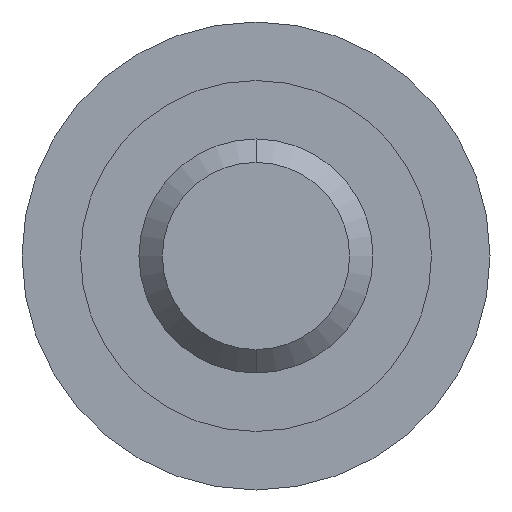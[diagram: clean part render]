
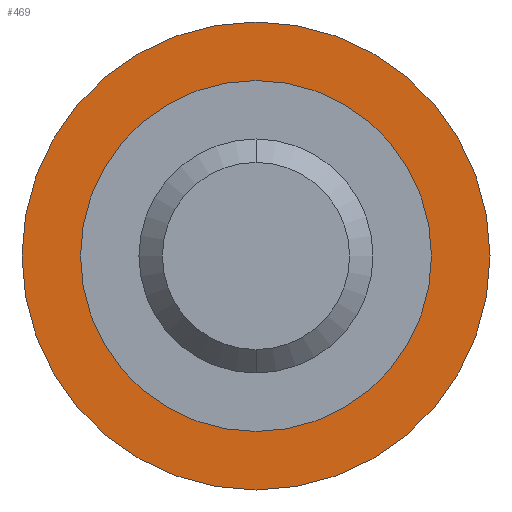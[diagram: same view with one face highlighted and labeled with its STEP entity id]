
A CAD part, front view. The second image highlights one B-rep face of the part: STEP entity #469.
In plain terms, the highlighted planar face has unit normal (0, -1, 0).
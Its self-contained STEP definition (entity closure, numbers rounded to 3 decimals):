
#2 = DIRECTION ( 'NONE',  ( 0., 1., 0. ) ) ;
#6 = DIRECTION ( 'NONE',  ( 0., 1., 0. ) ) ;
#13 = VERTEX_POINT ( 'NONE', #333 ) ;
#30 = EDGE_CURVE ( 'NONE', #13, #286, #299, .T. ) ;
#63 = CIRCLE ( 'NONE', #341, 5. ) ;
#65 = EDGE_LOOP ( 'NONE', ( #513, #101 ) ) ;
#74 = EDGE_CURVE ( 'NONE', #201, #272, #343, .T. ) ;
#100 = AXIS2_PLACEMENT_3D ( 'NONE', #324, #6, #279 ) ;
#101 = ORIENTED_EDGE ( 'NONE', *, *, #451, .F. ) ;
#120 = CARTESIAN_POINT ( 'NONE',  ( 0., 25.25, 3.75 ) ) ;
#154 = DIRECTION ( 'NONE',  ( 0., 1., 0. ) ) ;
#155 = PLANE ( 'NONE',  #300 ) ;
#157 = ORIENTED_EDGE ( 'NONE', *, *, #74, .T. ) ;
#167 = CARTESIAN_POINT ( 'NONE',  ( 0., 25.25, 5. ) ) ;
#201 = VERTEX_POINT ( 'NONE', #219 ) ;
#202 = DIRECTION ( 'NONE',  ( 0., 0., 1. ) ) ;
#207 = DIRECTION ( 'NONE',  ( 0., 0., 1. ) ) ;
#219 = CARTESIAN_POINT ( 'NONE',  ( 0., 25.25, -3.75 ) ) ;
#251 = CARTESIAN_POINT ( 'NONE',  ( 0., 25.25, 0. ) ) ;
#263 = FACE_OUTER_BOUND ( 'NONE', #65, .T. ) ;
#272 = VERTEX_POINT ( 'NONE', #120 ) ;
#275 = DIRECTION ( 'NONE',  ( 0., 0., 1. ) ) ;
#278 = ORIENTED_EDGE ( 'NONE', *, *, #372, .T. ) ;
#279 = DIRECTION ( 'NONE',  ( 0., 0., 1. ) ) ;
#286 = VERTEX_POINT ( 'NONE', #167 ) ;
#299 = CIRCLE ( 'NONE', #100, 5. ) ;
#300 = AXIS2_PLACEMENT_3D ( 'NONE', #388, #154, #430 ) ;
#319 = CARTESIAN_POINT ( 'NONE',  ( 0., 25.25, 0. ) ) ;
#321 = AXIS2_PLACEMENT_3D ( 'NONE', #251, #523, #207 ) ;
#324 = CARTESIAN_POINT ( 'NONE',  ( 0., 25.25, 0. ) ) ;
#333 = CARTESIAN_POINT ( 'NONE',  ( 0., 25.25, -5. ) ) ;
#336 = FACE_BOUND ( 'NONE', #403, .T. ) ;
#341 = AXIS2_PLACEMENT_3D ( 'NONE', #562, #519, #202 ) ;
#343 = CIRCLE ( 'NONE', #399, 3.75 ) ;
#372 = EDGE_CURVE ( 'NONE', #272, #201, #428, .T. ) ;
#388 = CARTESIAN_POINT ( 'NONE',  ( 0., 25.25, 0. ) ) ;
#399 = AXIS2_PLACEMENT_3D ( 'NONE', #319, #2, #275 ) ;
#403 = EDGE_LOOP ( 'NONE', ( #157, #278 ) ) ;
#428 = CIRCLE ( 'NONE', #321, 3.75 ) ;
#430 = DIRECTION ( 'NONE',  ( 0., 0., 1. ) ) ;
#451 = EDGE_CURVE ( 'NONE', #286, #13, #63, .T. ) ;
#469 = ADVANCED_FACE ( 'NONE', ( #336, #263 ), #155, .F. ) ;
#513 = ORIENTED_EDGE ( 'NONE', *, *, #30, .F. ) ;
#519 = DIRECTION ( 'NONE',  ( 0., 1., 0. ) ) ;
#523 = DIRECTION ( 'NONE',  ( 0., 1., 0. ) ) ;
#562 = CARTESIAN_POINT ( 'NONE',  ( 0., 25.25, 0. ) ) ;
